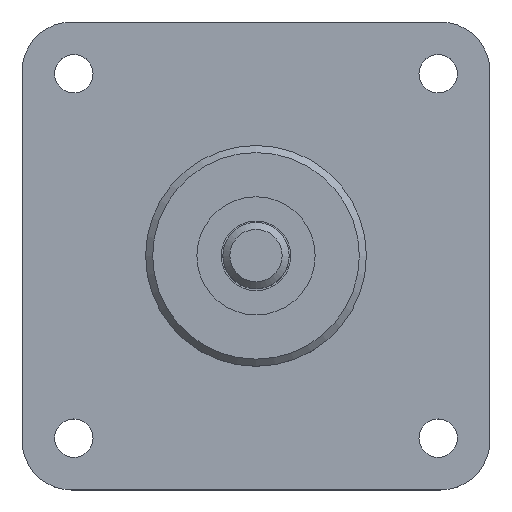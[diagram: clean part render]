
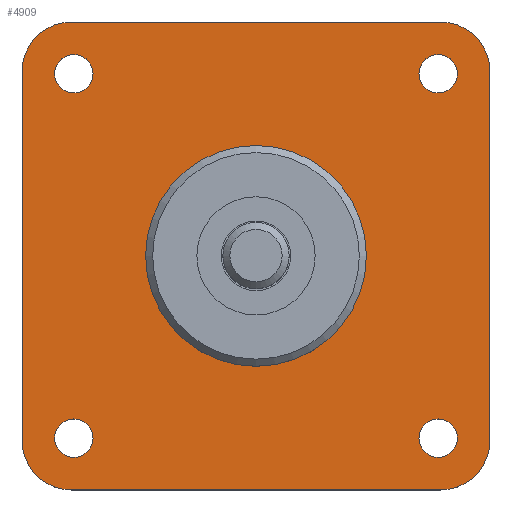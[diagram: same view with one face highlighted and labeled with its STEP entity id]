
A CAD part, top view. The second image highlights one B-rep face of the part: STEP entity #4909.
In plain terms, the highlighted planar face has unit normal (0, 0, 1).
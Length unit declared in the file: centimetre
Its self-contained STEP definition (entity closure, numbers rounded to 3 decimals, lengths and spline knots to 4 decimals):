
#141=VECTOR('',#5817,1.);
#144=VECTOR('',#5825,1.);
#147=VECTOR('',#5833,1.);
#150=VECTOR('',#5841,1.);
#364=LINE('',#7051,#141);
#367=LINE('',#7059,#144);
#370=LINE('',#7067,#147);
#373=LINE('',#7075,#150);
#1713=PLANE('',#5221);
#1846=VERTEX_POINT('',#7039);
#1848=VERTEX_POINT('',#7046);
#1849=VERTEX_POINT('',#7047);
#1850=VERTEX_POINT('',#7052);
#1851=VERTEX_POINT('',#7056);
#1852=VERTEX_POINT('',#7060);
#1853=VERTEX_POINT('',#7064);
#1854=VERTEX_POINT('',#7068);
#1855=VERTEX_POINT('',#7072);
#1856=VERTEX_POINT('',#7078);
#1857=VERTEX_POINT('',#7081);
#1858=VERTEX_POINT('',#7084);
#1859=VERTEX_POINT('',#7087);
#2224=CIRCLE('',#5197,1.5875);
#2226=CIRCLE('',#5202,0.7112);
#2227=CIRCLE('',#5205,0.7112);
#2228=CIRCLE('',#5208,0.7112);
#2229=CIRCLE('',#5211,0.7112);
#2230=CIRCLE('',#5214,0.2769);
#2231=CIRCLE('',#5216,0.2769);
#2232=CIRCLE('',#5218,0.2769);
#2233=CIRCLE('',#5220,0.2769);
#2505=EDGE_CURVE('',#1846,#1846,#2224,.T.);
#2507=EDGE_CURVE('',#1848,#1849,#2226,.T.);
#2510=EDGE_CURVE('',#1849,#1850,#364,.T.);
#2512=EDGE_CURVE('',#1850,#1851,#2227,.T.);
#2514=EDGE_CURVE('',#1851,#1852,#367,.T.);
#2516=EDGE_CURVE('',#1852,#1853,#2228,.T.);
#2518=EDGE_CURVE('',#1853,#1854,#370,.T.);
#2520=EDGE_CURVE('',#1854,#1855,#2229,.T.);
#2522=EDGE_CURVE('',#1855,#1848,#373,.T.);
#2523=EDGE_CURVE('',#1856,#1856,#2230,.T.);
#2524=EDGE_CURVE('',#1857,#1857,#2231,.T.);
#2525=EDGE_CURVE('',#1858,#1858,#2232,.T.);
#2526=EDGE_CURVE('',#1859,#1859,#2233,.T.);
#3107=ORIENTED_EDGE('',*,*,#2505,.T.);
#3108=ORIENTED_EDGE('',*,*,#2526,.F.);
#3109=ORIENTED_EDGE('',*,*,#2525,.F.);
#3110=ORIENTED_EDGE('',*,*,#2524,.F.);
#3111=ORIENTED_EDGE('',*,*,#2523,.F.);
#3112=ORIENTED_EDGE('',*,*,#2507,.F.);
#3113=ORIENTED_EDGE('',*,*,#2522,.F.);
#3114=ORIENTED_EDGE('',*,*,#2520,.F.);
#3115=ORIENTED_EDGE('',*,*,#2518,.F.);
#3116=ORIENTED_EDGE('',*,*,#2516,.F.);
#3117=ORIENTED_EDGE('',*,*,#2514,.F.);
#3118=ORIENTED_EDGE('',*,*,#2512,.F.);
#3119=ORIENTED_EDGE('',*,*,#2510,.F.);
#4160=EDGE_LOOP('',(#3107));
#4161=EDGE_LOOP('',(#3108));
#4162=EDGE_LOOP('',(#3109));
#4163=EDGE_LOOP('',(#3110));
#4164=EDGE_LOOP('',(#3111));
#4165=EDGE_LOOP('',(#3112,#3113,#3114,#3115,#3116,#3117,#3118,#3119));
#4548=FACE_BOUND('',#4160,.T.);
#4549=FACE_BOUND('',#4161,.T.);
#4550=FACE_BOUND('',#4162,.T.);
#4551=FACE_BOUND('',#4163,.T.);
#4552=FACE_BOUND('',#4164,.T.);
#4553=FACE_BOUND('',#4165,.T.);
#4909=ADVANCED_FACE('',(#4548,#4549,#4550,#4551,#4552,#4553),#1713,.T.);
#5197=AXIS2_PLACEMENT_3D('',#7038,#5803,#5804);
#5202=AXIS2_PLACEMENT_3D('',#7045,#5812,#5813);
#5205=AXIS2_PLACEMENT_3D('',#7055,#5821,#5822);
#5208=AXIS2_PLACEMENT_3D('',#7063,#5829,#5830);
#5211=AXIS2_PLACEMENT_3D('',#7071,#5837,#5838);
#5214=AXIS2_PLACEMENT_3D('',#7077,#5844,#5845);
#5216=AXIS2_PLACEMENT_3D('',#7080,#5848,#5849);
#5218=AXIS2_PLACEMENT_3D('',#7083,#5852,#5853);
#5220=AXIS2_PLACEMENT_3D('',#7086,#5856,#5857);
#5221=AXIS2_PLACEMENT_3D('',#7088,#5858,$);
#5803=DIRECTION('',(0.,0.,-1.));
#5804=DIRECTION('',(1.588,0.,0.));
#5812=DIRECTION('',(0.,0.,-1.));
#5813=DIRECTION('',(0.711,0.,0.));
#5817=DIRECTION('',(1.,0.,0.));
#5821=DIRECTION('',(0.,0.,-1.));
#5822=DIRECTION('',(0.711,0.,0.));
#5825=DIRECTION('',(0.,-1.,0.));
#5829=DIRECTION('',(0.,0.,-1.));
#5830=DIRECTION('',(0.711,0.,0.));
#5833=DIRECTION('',(-1.,0.,0.));
#5837=DIRECTION('',(0.,0.,-1.));
#5838=DIRECTION('',(0.711,0.,0.));
#5841=DIRECTION('',(0.,1.,0.));
#5844=DIRECTION('',(0.,0.,1.));
#5845=DIRECTION('',(0.277,0.,0.));
#5848=DIRECTION('',(0.,0.,1.));
#5849=DIRECTION('',(0.277,0.,0.));
#5852=DIRECTION('',(0.,0.,1.));
#5853=DIRECTION('',(0.277,0.,0.));
#5856=DIRECTION('',(0.,0.,1.));
#5857=DIRECTION('',(0.277,0.,0.));
#5858=DIRECTION('',(0.,0.,1.));
#7038=CARTESIAN_POINT('',(0.,0.,
0.635));
#7039=CARTESIAN_POINT('',(1.5875,0.,0.635));
#7045=CARTESIAN_POINT('',(-2.6543,2.6543,0.635));
#7046=CARTESIAN_POINT('',(-3.3655,2.6543,0.635));
#7047=CARTESIAN_POINT('',(-2.6543,3.3655,0.635));
#7051=CARTESIAN_POINT('',(2.6543,3.3655,0.635));
#7052=CARTESIAN_POINT('',(2.6543,3.3655,0.635));
#7055=CARTESIAN_POINT('',(2.6543,2.6543,0.635));
#7056=CARTESIAN_POINT('',(3.3655,2.6543,0.635));
#7059=CARTESIAN_POINT('',(3.3655,-2.6543,0.635));
#7060=CARTESIAN_POINT('',(3.3655,-2.6543,0.635));
#7063=CARTESIAN_POINT('',(2.6543,-2.6543,0.635));
#7064=CARTESIAN_POINT('',(2.6543,-3.3655,0.635));
#7067=CARTESIAN_POINT('',(-2.6543,-3.3655,0.635));
#7068=CARTESIAN_POINT('',(-2.6543,-3.3655,0.635));
#7071=CARTESIAN_POINT('',(-2.6543,-2.6543,0.635));
#7072=CARTESIAN_POINT('',(-3.3655,-2.6543,0.635));
#7075=CARTESIAN_POINT('',(-3.3655,2.6543,0.635));
#7077=CARTESIAN_POINT('',(-2.6213,2.6213,0.635));
#7078=CARTESIAN_POINT('',(-2.3444,2.6213,0.635));
#7080=CARTESIAN_POINT('',(2.6213,-2.6213,0.635));
#7081=CARTESIAN_POINT('',(2.8981,-2.6213,0.635));
#7083=CARTESIAN_POINT('',(2.6213,2.6213,0.635));
#7084=CARTESIAN_POINT('',(2.8981,2.6213,0.635));
#7086=CARTESIAN_POINT('',(-2.6213,-2.6213,0.635));
#7087=CARTESIAN_POINT('',(-2.3444,-2.6213,0.635));
#7088=CARTESIAN_POINT('',(0.,0.,
0.635));
